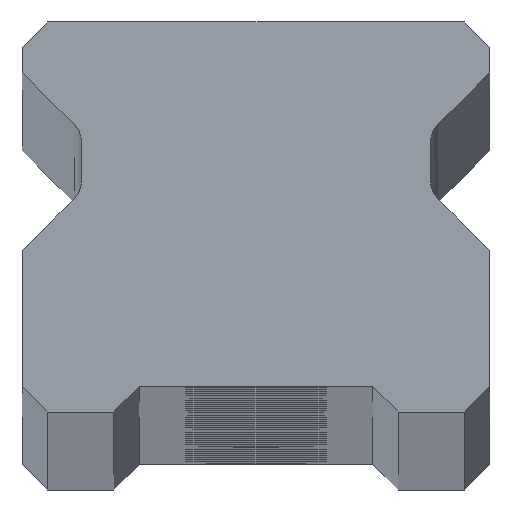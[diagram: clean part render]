
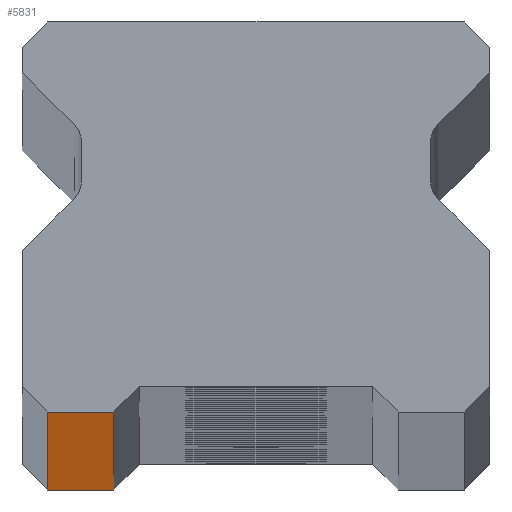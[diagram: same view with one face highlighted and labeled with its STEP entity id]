
A CAD part, top view. The second image highlights one B-rep face of the part: STEP entity #5831.
In plain terms, the highlighted planar face has unit normal (0, -1, 0).
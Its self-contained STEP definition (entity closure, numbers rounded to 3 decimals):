
#196 = VERTEX_POINT ( 'NONE', #735 ) ;
#221 = EDGE_LOOP ( 'NONE', ( #6458, #3230, #1137, #1489 ) ) ;
#321 = CARTESIAN_POINT ( 'NONE',  ( -10.25, 0., 1100. ) ) ;
#502 = CARTESIAN_POINT ( 'NONE',  ( 11.5, 0., 1100. ) ) ;
#639 = VECTOR ( 'NONE', #5938, 1000. ) ;
#658 = EDGE_CURVE ( 'NONE', #2087, #196, #4674, .T. ) ;
#735 = CARTESIAN_POINT ( 'NONE',  ( -7., 0., -1100. ) ) ;
#794 = LINE ( 'NONE', #321, #639 ) ;
#862 = AXIS2_PLACEMENT_3D ( 'NONE', #502, #5077, #2490 ) ;
#926 = LINE ( 'NONE', #3107, #6182 ) ;
#1049 = DIRECTION ( 'NONE',  ( 1., 0., 0. ) ) ;
#1137 = ORIENTED_EDGE ( 'NONE', *, *, #1785, .F. ) ;
#1489 = ORIENTED_EDGE ( 'NONE', *, *, #5056, .T. ) ;
#1776 = EDGE_CURVE ( 'NONE', #196, #2200, #3780, .T. ) ;
#1785 = EDGE_CURVE ( 'NONE', #5700, #2200, #926, .T. ) ;
#2087 = VERTEX_POINT ( 'NONE', #4995 ) ;
#2200 = VERTEX_POINT ( 'NONE', #5561 ) ;
#2275 = VECTOR ( 'NONE', #4598, 1000. ) ;
#2490 = DIRECTION ( 'NONE',  ( -1., 0., 0. ) ) ;
#3028 = PLANE ( 'NONE',  #862 ) ;
#3107 = CARTESIAN_POINT ( 'NONE',  ( 11.5, 0., 1100. ) ) ;
#3230 = ORIENTED_EDGE ( 'NONE', *, *, #1776, .T. ) ;
#3720 = VECTOR ( 'NONE', #5701, 1000. ) ;
#3780 = LINE ( 'NONE', #4090, #2275 ) ;
#3889 = FACE_OUTER_BOUND ( 'NONE', #221, .T. ) ;
#3965 = CARTESIAN_POINT ( 'NONE',  ( -10.25, 0., 1100. ) ) ;
#4090 = CARTESIAN_POINT ( 'NONE',  ( -7., 0., -1100. ) ) ;
#4172 = CARTESIAN_POINT ( 'NONE',  ( 11.5, 0., -1100. ) ) ;
#4598 = DIRECTION ( 'NONE',  ( 0., 0., 1. ) ) ;
#4674 = LINE ( 'NONE', #4172, #3720 ) ;
#4995 = CARTESIAN_POINT ( 'NONE',  ( -10.25, 0., -1100. ) ) ;
#5056 = EDGE_CURVE ( 'NONE', #5700, #2087, #794, .T. ) ;
#5077 = DIRECTION ( 'NONE',  ( 0., 1., 0. ) ) ;
#5561 = CARTESIAN_POINT ( 'NONE',  ( -7., 0., 1100. ) ) ;
#5700 = VERTEX_POINT ( 'NONE', #3965 ) ;
#5701 = DIRECTION ( 'NONE',  ( 1., 0., 0. ) ) ;
#5831 = ADVANCED_FACE ( 'NONE', ( #3889 ), #3028, .F. ) ;
#5938 = DIRECTION ( 'NONE',  ( 0., 0., -1. ) ) ;
#6182 = VECTOR ( 'NONE', #1049, 1000. ) ;
#6458 = ORIENTED_EDGE ( 'NONE', *, *, #658, .T. ) ;
